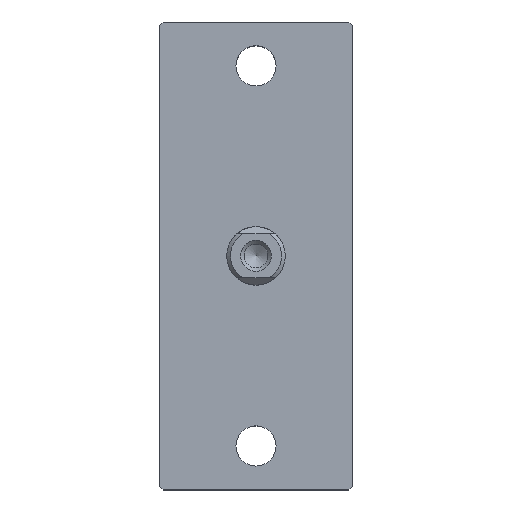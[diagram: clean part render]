
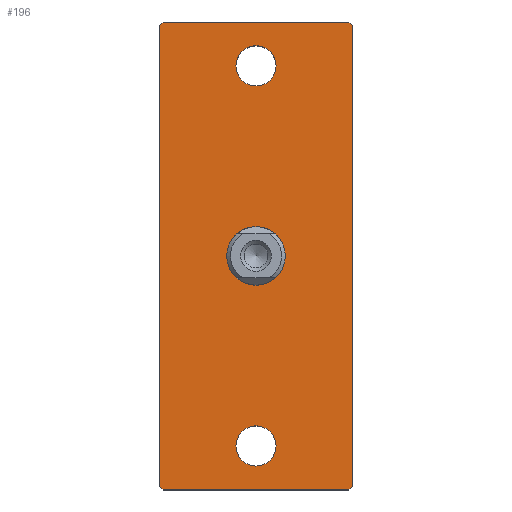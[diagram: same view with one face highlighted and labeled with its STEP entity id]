
A CAD part, top view. The second image highlights one B-rep face of the part: STEP entity #196.
In plain terms, the highlighted planar face has unit normal (0, 0, 1).
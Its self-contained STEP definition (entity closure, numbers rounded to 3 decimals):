
#49=CARTESIAN_POINT('',(-11.983,31.5,14.));
#50=VERTEX_POINT('',#49);
#51=CARTESIAN_POINT('',(-11.483,32.0,14.));
#52=VERTEX_POINT('',#51);
#53=CARTESIAN_POINT('',(-11.983,31.5,14.));
#54=DIRECTION('',(0.707,0.707,0.0));
#55=VECTOR('',#54,0.707);
#56=LINE('',#53,#55);
#57=EDGE_CURVE('',#50,#52,#56,.T.);
#92=CARTESIAN_POINT('',(1.217,0.,14.));
#93=DIRECTION('',(0.0,0.0,1.0));
#94=DIRECTION('',(1.0,0.0,0.0));
#95=AXIS2_PLACEMENT_3D('',#92,#93,#94);
#96=PLANE('',#95);
#97=ORIENTED_EDGE('',*,*,#57,.F.);
#98=CARTESIAN_POINT('',(-11.983,-31.5,14.));
#99=VERTEX_POINT('',#98);
#100=CARTESIAN_POINT('',(-11.983,-31.5,14.));
#101=DIRECTION('',(0.0,1.0,0.0));
#102=VECTOR('',#101,63.);
#103=LINE('',#100,#102);
#104=EDGE_CURVE('',#99,#50,#103,.T.);
#105=ORIENTED_EDGE('',*,*,#104,.F.);
#106=CARTESIAN_POINT('',(-11.483,-32.0,14.));
#107=VERTEX_POINT('',#106);
#108=CARTESIAN_POINT('',(-11.483,-32.0,14.));
#109=DIRECTION('',(-0.707,0.707,0.0));
#110=VECTOR('',#109,0.707);
#111=LINE('',#108,#110);
#112=EDGE_CURVE('',#107,#99,#111,.T.);
#113=ORIENTED_EDGE('',*,*,#112,.F.);
#114=CARTESIAN_POINT('',(13.917,-32.0,14.));
#115=VERTEX_POINT('',#114);
#116=CARTESIAN_POINT('',(13.917,-32.0,14.));
#117=DIRECTION('',(-1.0,0.0,0.0));
#118=VECTOR('',#117,25.4);
#119=LINE('',#116,#118);
#120=EDGE_CURVE('',#115,#107,#119,.T.);
#121=ORIENTED_EDGE('',*,*,#120,.F.);
#122=CARTESIAN_POINT('',(14.417,-31.5,14.));
#123=VERTEX_POINT('',#122);
#124=CARTESIAN_POINT('',(14.417,-31.5,14.));
#125=DIRECTION('',(-0.707,-0.707,0.0));
#126=VECTOR('',#125,0.707);
#127=LINE('',#124,#126);
#128=EDGE_CURVE('',#123,#115,#127,.T.);
#129=ORIENTED_EDGE('',*,*,#128,.F.);
#130=CARTESIAN_POINT('',(14.417,31.5,14.));
#131=VERTEX_POINT('',#130);
#132=CARTESIAN_POINT('',(14.417,31.5,14.));
#133=DIRECTION('',(0.0,-1.0,0.0));
#134=VECTOR('',#133,63.);
#135=LINE('',#132,#134);
#136=EDGE_CURVE('',#131,#123,#135,.T.);
#137=ORIENTED_EDGE('',*,*,#136,.F.);
#138=CARTESIAN_POINT('',(13.917,32.0,14.));
#139=VERTEX_POINT('',#138);
#140=CARTESIAN_POINT('',(13.917,32.0,14.));
#141=DIRECTION('',(0.707,-0.707,0.0));
#142=VECTOR('',#141,0.707);
#143=LINE('',#140,#142);
#144=EDGE_CURVE('',#139,#131,#143,.T.);
#145=ORIENTED_EDGE('',*,*,#144,.F.);
#146=CARTESIAN_POINT('',(-11.483,32.0,14.));
#147=DIRECTION('',(1.0,0.0,0.0));
#148=VECTOR('',#147,25.4);
#149=LINE('',#146,#148);
#150=EDGE_CURVE('',#52,#139,#149,.T.);
#151=ORIENTED_EDGE('',*,*,#150,.F.);
#152=EDGE_LOOP('',(#97,#105,#113,#121,#129,#137,#145,#151));
#153=FACE_OUTER_BOUND('',#152,.T.);
#154=CARTESIAN_POINT('',(3.967,-26.0,14.));
#155=VERTEX_POINT('',#154);
#156=CARTESIAN_POINT('',(1.217,-26.0,14.));
#157=DIRECTION('',(0.0,0.0,-1.0));
#158=DIRECTION('',(-1.0,0.0,0.0));
#159=AXIS2_PLACEMENT_3D('',#156,#157,#158);
#160=CIRCLE('',#159,2.75);
#161=EDGE_CURVE('',#155,#155,#160,.T.);
#162=ORIENTED_EDGE('',*,*,#161,.T.);
#163=EDGE_LOOP('',(#162));
#164=FACE_BOUND('',#163,.T.);
#165=CARTESIAN_POINT('',(3.967,26.0,14.));
#166=VERTEX_POINT('',#165);
#167=CARTESIAN_POINT('',(1.217,26.0,14.));
#168=DIRECTION('',(0.0,0.0,-1.0));
#169=DIRECTION('',(-1.0,0.0,0.0));
#170=AXIS2_PLACEMENT_3D('',#167,#168,#169);
#171=CIRCLE('',#170,2.75);
#172=EDGE_CURVE('',#166,#166,#171,.T.);
#173=ORIENTED_EDGE('',*,*,#172,.T.);
#174=EDGE_LOOP('',(#173));
#175=FACE_BOUND('',#174,.T.);
#176=CARTESIAN_POINT('',(1.217,-4.,14.));
#177=VERTEX_POINT('',#176);
#178=CARTESIAN_POINT('',(1.217,4.,14.));
#179=VERTEX_POINT('',#178);
#180=CARTESIAN_POINT('',(1.217,0.0,14.));
#181=DIRECTION('',(0.0,0.0,-1.0));
#182=DIRECTION('',(0.0,1.0,0.0));
#183=AXIS2_PLACEMENT_3D('',#180,#181,#182);
#184=CIRCLE('',#183,4.);
#185=EDGE_CURVE('',#177,#179,#184,.T.);
#186=ORIENTED_EDGE('',*,*,#185,.T.);
#187=CARTESIAN_POINT('',(1.217,0.0,14.));
#188=DIRECTION('',(0.0,0.0,-1.0));
#189=DIRECTION('',(0.0,1.0,0.0));
#190=AXIS2_PLACEMENT_3D('',#187,#188,#189);
#191=CIRCLE('',#190,4.);
#192=EDGE_CURVE('',#179,#177,#191,.T.);
#193=ORIENTED_EDGE('',*,*,#192,.T.);
#194=EDGE_LOOP('',(#186,#193));
#195=FACE_BOUND('',#194,.T.);
#196=ADVANCED_FACE('',(#153,#164,#175,#195),#96,.T.);
